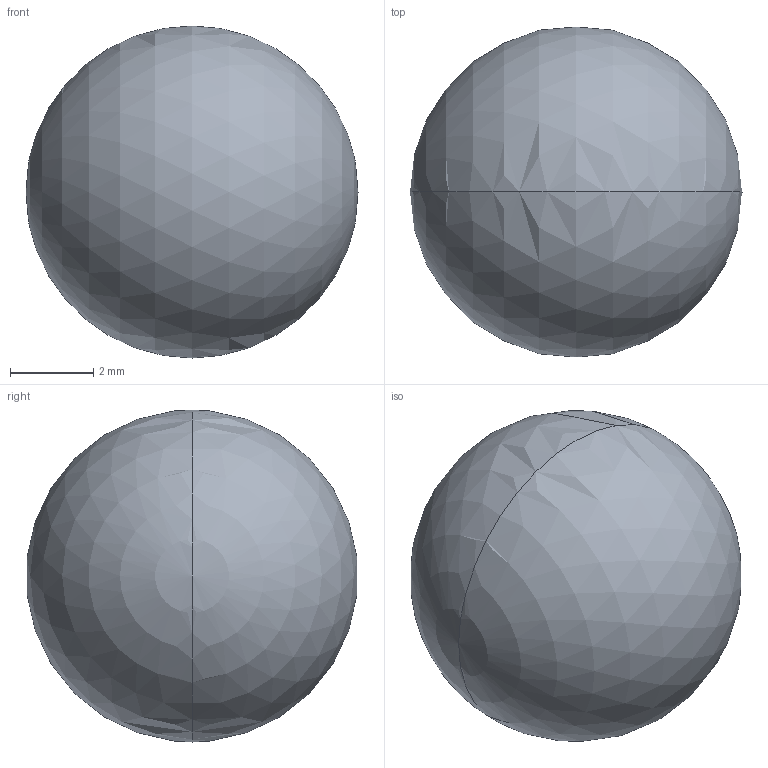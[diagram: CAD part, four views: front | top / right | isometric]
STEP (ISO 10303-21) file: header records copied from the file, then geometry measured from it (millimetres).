
FILE_DESCRIPTION((''),'2;1');
FILE_NAME('6MM_STEEL_BALL','2024-05-16T11:50:19',('qinghui.yi'),(''),'CREO PARAMETRIC BY PTC INC, 2019164','CREO PARAMETRIC BY PTC INC, 2019164','');
FILE_SCHEMA(('CONFIG_CONTROL_DESIGN','SHAPE_APPEARANCE_LAYERS_GROUPS'));
Length unit declared in the file: millimetre
Products named in the file (1): 6MM_STEEL_BALL
Bounding box: 8 x 7.95 x 8 mm (x, y, z)
Volume: 268.1 mm3; surface area: 201.1 mm2
Topology: 1 solids, 1 shells, 2 faces, 9 edges, 8 vertices
Faces by surface type: sphere 2
Entity records: 443 total; most frequent: COLOUR_RGB 312, DIRECTION 13, CARTESIAN_POINT 10, DRAUGHTING_PRE_DEFINED_COLOUR 8, AXIS2_PLACEMENT_3D 5, ORIENTED_EDGE 4, CURVE_STYLE 4, PRESENTATION_STYLE_ASSIGNMENT 4
